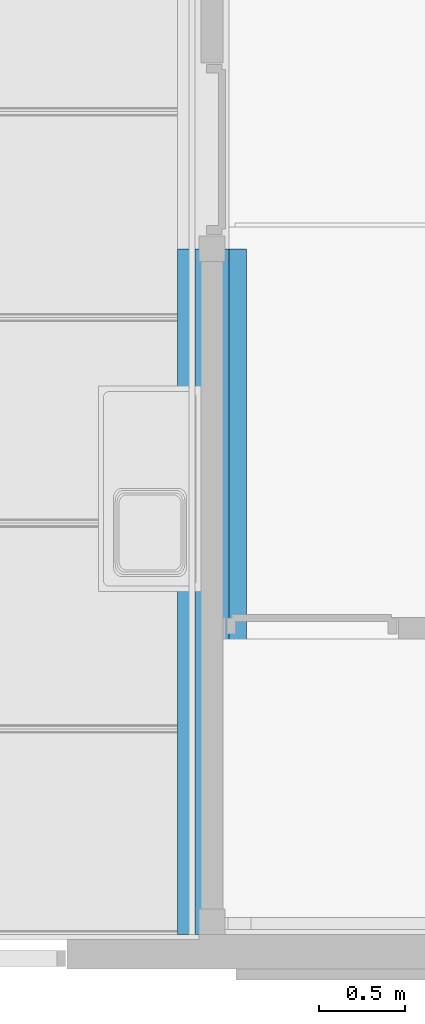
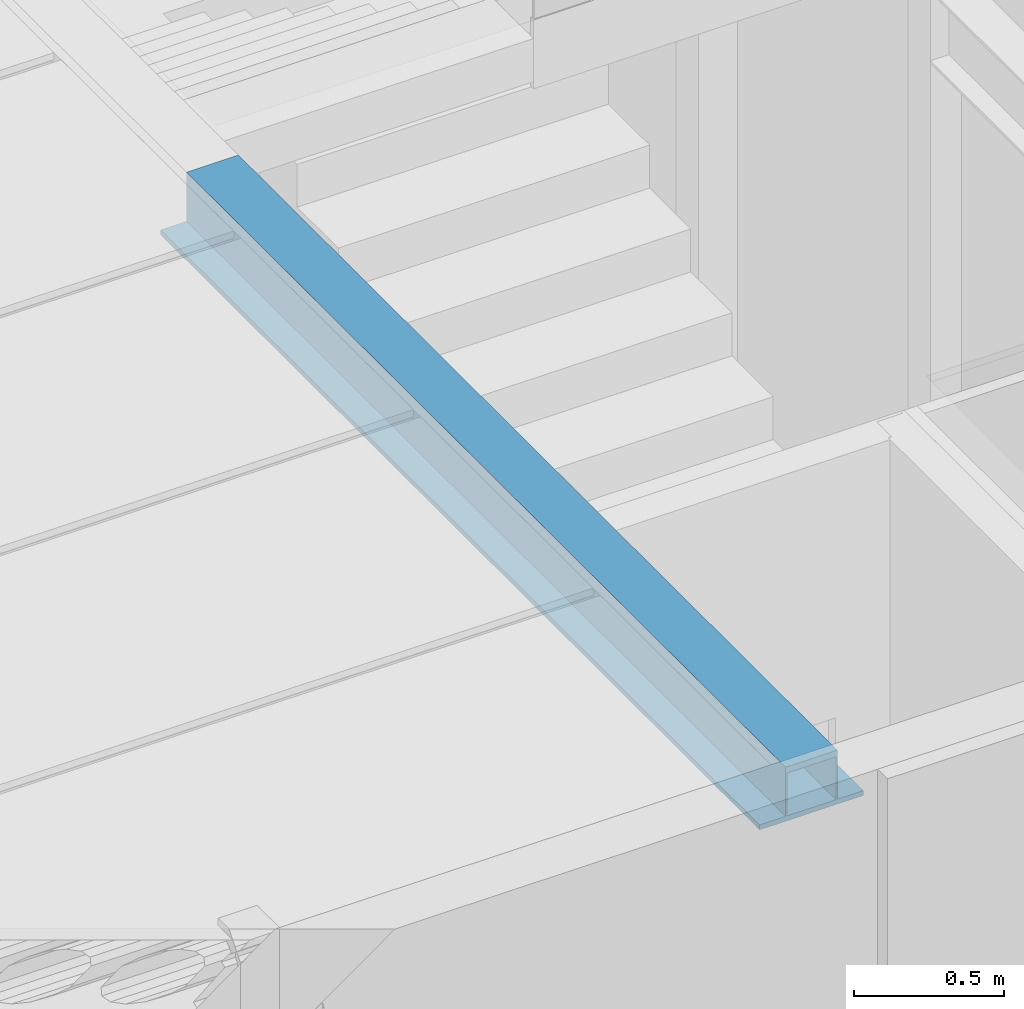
# One storey, part 18 of 45: 1 beam.
"""IFC2X3 building model written with IfcOpenShell, lengths in millimetres."""

import ifcopenshell
import ifcopenshell.guid

model = None  # the IFC model being written
_history = None  # IfcOwnerHistory: only IFC2X3 demands one
_inside = {}  # id of a spatial element -> (the spatial element, [elements in it])
_under = {}  # id of a project, library or spatial element -> (it, [spatial elements below it])
_declared = {}  # id of a project -> (the project, [libraries it declares])
_typed = {}  # id of a type object -> (the type object, [elements of that type])
_made_of = {}  # id of a material, layer set ... -> (it, [elements and type objects made of it])


def new_model(schema):
    """Start an empty IFC model of exactly this schema.

    Asked for "IFC4X3", IfcOpenShell would pick the latest addendum, in which some entities
    have other attributes; the version numbers below select the first issue.
    IFC2X3 requires an IfcOwnerHistory on every rooted entity: one is made here for all.
    """
    global model, _history
    if schema == "IFC4X3":
        model = ifcopenshell.file(schema_version=(4, 3, 0, 0))
    else:
        model = ifcopenshell.file(schema=schema)
    _inside.clear()
    _under.clear()
    _declared.clear()
    _typed.clear()
    _made_of.clear()
    _history = None
    if model.schema == "IFC2X3":
        org = make("IfcOrganization", Name="unknown")
        user = make(
            "IfcPersonAndOrganization",
            ThePerson=make("IfcPerson", FamilyName="unknown"),
            TheOrganization=org,
        )
        app = make(
            "IfcApplication",
            ApplicationDeveloper=org,
            Version="unknown",
            ApplicationFullName="unknown",
            ApplicationIdentifier="unknown",
        )
        _history = make(
            "IfcOwnerHistory",
            OwningUser=user,
            OwningApplication=app,
            ChangeAction="ADDED",
            CreationDate=0,
        )
    return model


def make(cls, **values):
    """One entity of the class cls with the attributes given. An attribute that is None is left unset."""
    return model.create_entity(
        cls, **{name: value for name, value in values.items() if value is not None}
    )


def entity(cls, *values):
    """Any entity or typed value of the class cls, its attributes in the order of the schema. None: left unset."""
    e = model.create_entity(cls)
    for i, value in enumerate(values):
        if value is not None:
            e[i] = value
    return e


def rooted(cls, **values):
    """An entity with a GlobalId (a new one), such as an element, a storey or a relation."""
    return make(cls, GlobalId=ifcopenshell.guid.new(), OwnerHistory=_history, **values)


def si_unit(unit_type, name, prefix=None):
    """IfcSIUnit, for example si_unit("LENGTHUNIT", "METRE", prefix="MILLI")."""
    return make("IfcSIUnit", UnitType=unit_type, Prefix=prefix, Name=name)


def converted_unit(unit_type, name, factor, base, dimensions=None, offset=None):
    """IfcConversionBasedUnit, such as the inch: factor (a typed value) times the base unit."""
    return make(
        "IfcConversionBasedUnit"
        if offset is None
        else "IfcConversionBasedUnitWithOffset",
        ConversionOffset=offset,
        Dimensions=None
        if dimensions is None
        else entity("IfcDimensionalExponents", *dimensions),
        UnitType=unit_type,
        Name=name,
        ConversionFactor=make(
            "IfcMeasureWithUnit", ValueComponent=factor, UnitComponent=base
        ),
    )


def assignment(units):
    """IfcUnitAssignment: the units of a project."""
    return None if units is None else make("IfcUnitAssignment", Units=units)


def point(xyz):
    """IfcCartesianPoint."""
    return None if xyz is None else make("IfcCartesianPoint", Coordinates=xyz)


def direction(xyz):
    """IfcDirection."""
    return None if xyz is None else make("IfcDirection", DirectionRatios=xyz)


def frame(location, z_axis=None, x_axis=None):
    """IfcAxis2Placement3D, a coordinate frame: its origin and axes. An axis left out is left unset."""
    return make(
        "IfcAxis2Placement3D",
        Location=point(location),
        Axis=direction(z_axis),
        RefDirection=direction(x_axis),
    )


def origin():
    """The frame at (0, 0, 0) with its axes left unset."""
    return frame((0.0, 0.0, 0.0))


def place(relative_to, where):
    """IfcLocalPlacement: puts the frame where relative to a parent placement (None: the world)."""
    return make(
        "IfcLocalPlacement", PlacementRelTo=relative_to, RelativePlacement=where
    )


def context(
    kind, dimensions, precision=None, world=None, true_north=None, identifier=None
):
    """IfcGeometricRepresentationContext, for example the 3D "Model" context."""
    return make(
        "IfcGeometricRepresentationContext",
        ContextIdentifier=identifier,
        ContextType=kind,
        CoordinateSpaceDimension=dimensions,
        Precision=precision,
        WorldCoordinateSystem=world,
        TrueNorth=true_north,
    )


def subcontext(parent, identifier, kind, view, scale=None):
    """IfcGeometricRepresentationSubContext, for example "Body" below "Model"."""
    return make(
        "IfcGeometricRepresentationSubContext",
        ContextIdentifier=identifier,
        ContextType=kind,
        ParentContext=parent,
        TargetScale=scale,
        TargetView=view,
    )


def project(units=None, contexts=None):
    """IfcProject with its units and contexts."""
    return rooted(
        "IfcProject",
        Name="project",
        RepresentationContexts=contexts,
        UnitsInContext=assignment(units),
    )


def spatial(cls, under=None, at=None, **own):
    """A site, building, storey or space (cls), placed at a placement, below another one or the project."""
    s = rooted(cls, ObjectPlacement=at, **own)
    if under is not None:
        _under.setdefault(under.id(), (under, []))[1].append(s)
    return s


def faces_of(points, faces, orient=None, outer=None):
    """IfcFace entities. A face is a list of loops; a loop is a list of indices into points, from 0.

    orient and outer hold one flag for each loop. By default every Orientation is true, the
    first loop of a face is its IfcFaceOuterBound and the others are IfcFaceBound.
    """
    made = []
    for i, loops in enumerate(faces):
        bounds = []
        for j, loop in enumerate(loops):
            is_outer = j == 0 if outer is None else outer[i][j]
            bounds.append(
                make(
                    "IfcFaceOuterBound" if is_outer else "IfcFaceBound",
                    Bound=make("IfcPolyLoop", Polygon=[points[k] for k in loop]),
                    Orientation=True if orient is None else orient[i][j],
                )
            )
        made.append(make("IfcFace", Bounds=bounds))
    return made


def faceted_brep(points, faces, orient=None, outer=None, voids=None):
    """IfcFacetedBrep: a solid bounded by flat faces; with voids (closed shells), ...WithVoids."""
    shared = [point(p) for p in points]
    hull = make("IfcClosedShell", CfsFaces=faces_of(shared, faces, orient, outer))
    if voids is None:
        return make("IfcFacetedBrep", Outer=hull)
    return make(
        "IfcFacetedBrepWithVoids",
        Outer=hull,
        Voids=[
            make(cls, CfsFaces=faces_of(shared, fs, o, b)) for cls, fs, o, b in voids
        ],
    )


def shape(context_of_items, identifier, shape_type, items):
    """IfcShapeRepresentation: the items that make up one representation, for example the "Body"."""
    return make(
        "IfcShapeRepresentation",
        ContextOfItems=context_of_items,
        RepresentationIdentifier=identifier,
        RepresentationType=shape_type,
        Items=items,
    )


def material(Name=None, Category=None):
    """IfcMaterial."""
    return make("IfcMaterial", Name=Name, Category=Category)


def made_of(thing, what):
    """Note that an element or type object is made of a material, layer set ...; save() writes the relation."""
    if what is not None:
        _made_of.setdefault(what.id(), (what, []))[1].append(thing)
    return thing


def element(
    cls,
    number,
    at=None,
    inside=None,
    cuts=None,
    type_object=None,
    material=None,
    context=None,
    identifier="Body",
    shape_type=None,
    held_by="IfcProductDefinitionShape",
    body=None,
    shapes=None,
    **own,
):
    """One element of the class cls, such as IfcWall. Its Tag is "e" and its number.

    at: its placement. inside: the storey or other place that contains it. cuts: it is an
    opening in that element (IfcRelVoidsElement). A single representation is given by context,
    identifier, shape_type and body (its items); several are given by shapes. held_by: the class
    of the entity that holds the representations. save() writes the other relations.
    """
    e = rooted(cls, Tag="e%d" % number, ObjectPlacement=at, **own)
    if body is not None:
        shapes = [shape(context, identifier, shape_type, body)]
    if shapes is not None:
        e.Representation = make(held_by, Representations=shapes)
    if inside is not None:
        _inside.setdefault(inside.id(), (inside, []))[1].append(e)
    if cuts is not None:
        rooted(
            "IfcRelVoidsElement", RelatingBuildingElement=cuts, RelatedOpeningElement=e
        )
    if type_object is not None:
        _typed.setdefault(type_object.id(), (type_object, []))[1].append(e)
    return made_of(e, material)


def aggregate(whole, parts):
    """IfcRelAggregates: a whole, such as a stair, and the parts it consists of."""
    return rooted("IfcRelAggregates", RelatingObject=whole, RelatedObjects=parts)


def save(model, path):
    """Write the relations noted so far, then the file.

    IfcRelAggregates (storeys below a building ...), IfcRelContainedInSpatialStructure (elements
    in a storey), IfcRelDefinesByType, IfcRelAssociatesMaterial and IfcRelDeclares: one each for
    every whole, place, type object, material and project.
    """
    for whole, parts in _under.values():
        aggregate(whole, parts)
    for where, things in _inside.values():
        rooted(
            "IfcRelContainedInSpatialStructure",
            RelatedElements=things,
            RelatingStructure=where,
        )
    for kind, things in _typed.values():
        rooted("IfcRelDefinesByType", RelatedObjects=things, RelatingType=kind)
    for what, things in _made_of.values():
        rooted("IfcRelAssociatesMaterial", RelatedObjects=things, RelatingMaterial=what)
    for by, libraries in _declared.values():
        rooted("IfcRelDeclares", RelatingContext=by, RelatedDefinitions=libraries)
    model.write(path)


model = new_model("IFC2X3")

# Units and contexts
model_context = context("Model", 3, precision=1e-05, world=origin())
plan_context = context("Plan", 3, precision=1e-05, world=origin())
body_context = subcontext(model_context, "Body", "Model", "MODEL_VIEW")
ifc_project = project(units=[si_unit("LENGTHUNIT", "METRE", prefix="MILLI"), converted_unit("PLANEANGLEUNIT", "DEGREE", entity("IfcPlaneAngleMeasure", 0.0174532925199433), si_unit("PLANEANGLEUNIT", "RADIAN"), dimensions=[0, 0, 0, 0, 0, 0, 0]), si_unit("AREAUNIT", "SQUARE_METRE"), si_unit("VOLUMEUNIT", "CUBIC_METRE")], contexts=[model_context, plan_context])

# Building, storey
building_placement = place(None, origin())
building = spatial("IfcBuilding", under=ifc_project, at=building_placement, Name="HEKF Administrasjonbygg", CompositionType="ELEMENT")
storey_placement = place(building_placement, frame((0.0, 0.0, 6500.0), z_axis=(0.0, 0.0, 1.0), x_axis=(1.0, 0.0, 0.0)))
storey = spatial("IfcBuildingStorey", under=building, at=storey_placement, Name="Plan 1", CompositionType="ELEMENT", Elevation=6500.0)

# Beam
ifc_material = material(Name="HSQ")
beam_placement = place(storey_placement, frame((0.0, 0.0, -6500.0), z_axis=(0.0, 0.0, 1.0), x_axis=(1.0, 0.0, 0.0)))
element("IfcBeam", 1, at=beam_placement, inside=storey, material=ifc_material, context=body_context, shape_type="Brep", body=[
    faceted_brep([(26925.53680645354, -11999.99999999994, 9670.0), (26925.53680645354, -11999.99999999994, 9650.0), (26925.53680645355, -8000.0, 9650.0), (26925.53680645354, -8000.0, 9670.0), (27325.53680645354, -11999.99999999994, 9670.0), (27325.53680645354, -11999.99999999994, 9650.0), (26925.53680645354, -11999.99999999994, 9650.0), (26925.53680645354, -11999.99999999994, 9670.0), (27025.53680645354, -11999.99999999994, 9670.0), (27025.53680645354, -11999.99999999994, 9870.0), (27225.53680645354, -11999.99999999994, 9870.0), (27225.53680645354, -11999.99999999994, 9670.0), (27030.53680645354, -11999.99999999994, 9670.0), (27220.53680645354, -11999.99999999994, 9670.0), (27220.53680645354, -11999.99999999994, 9845.0), (27030.53680645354, -11999.99999999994, 9845.0), (27325.53680645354, -8000.0, 9670.0), (27325.53680645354, -8000.0, 9650.0), (27325.53680645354, -11999.99999999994, 9650.0), (27325.53680645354, -11999.99999999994, 9670.0), (26925.53680645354, -8000.0, 9670.0), (26925.53680645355, -8000.0, 9650.0), (27325.53680645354, -8000.0, 9650.0), (27325.53680645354, -8000.0, 9670.0), (27225.53680645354, -8000.0, 9670.0), (27225.53680645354, -8000.0, 9870.0), (27025.53680645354, -8000.0, 9870.0), (27025.53680645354, -8000.0, 9670.0), (27030.53680645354, -8000.0, 9670.0), (27030.53680645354, -8000.0, 9845.0), (27220.53680645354, -8000.0, 9845.0), (27220.53680645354, -8000.0, 9670.0), (26925.53680645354, -11999.99999999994, 9650.0), (27325.53680645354, -11999.99999999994, 9650.0), (27325.53680645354, -8000.0, 9650.0), (26925.53680645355, -8000.0, 9650.0), (27325.53680645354, -11999.99999999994, 9670.0), (27225.53680645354, -11999.99999999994, 9670.0), (27225.53680645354, -8000.0, 9670.0), (27325.53680645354, -8000.0, 9670.0), (27225.53680645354, -11999.99999999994, 9670.0), (27225.53680645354, -11999.99999999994, 9870.0), (27225.53680645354, -8000.0, 9870.0), (27225.53680645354, -8000.0, 9670.0), (27225.53680645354, -11999.99999999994, 9870.0), (27025.53680645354, -11999.99999999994, 9870.0), (27025.53680645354, -8000.0, 9870.0), (27225.53680645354, -8000.0, 9870.0), (27025.53680645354, -11999.99999999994, 9870.0), (27025.53680645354, -11999.99999999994, 9670.0), (27025.53680645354, -8000.0, 9670.0), (27025.53680645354, -8000.0, 9870.0), (27025.53680645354, -11999.99999999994, 9670.0), (26925.53680645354, -11999.99999999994, 9670.0), (26925.53680645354, -8000.0, 9670.0), (27025.53680645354, -8000.0, 9670.0), (27030.53680645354, -11999.99999999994, 9670.0), (27030.53680645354, -11999.99999999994, 9845.0), (27030.53680645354, -8000.0, 9845.0), (27030.53680645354, -8000.0, 9670.0), (27030.53680645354, -11999.99999999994, 9845.0), (27220.53680645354, -11999.99999999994, 9845.0), (27220.53680645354, -8000.0, 9845.0), (27030.53680645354, -8000.0, 9845.0), (27220.53680645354, -11999.99999999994, 9845.0), (27220.53680645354, -11999.99999999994, 9670.0), (27220.53680645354, -8000.0, 9670.0), (27220.53680645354, -8000.0, 9845.0), (27220.53680645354, -11999.99999999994, 9670.0), (27030.53680645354, -11999.99999999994, 9670.0), (27030.53680645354, -8000.0, 9670.0), (27220.53680645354, -8000.0, 9670.0)], [[[0, 1, 2, 3]], [[4, 5, 6, 7, 8, 9, 10, 11], [12, 13, 14, 15]], [[16, 17, 18, 19]], [[20, 21, 22, 23, 24, 25, 26, 27], [28, 29, 30, 31]], [[32, 33, 34, 35]], [[36, 37, 38, 39]], [[40, 41, 42, 43]], [[44, 45, 46, 47]], [[48, 49, 50, 51]], [[52, 53, 54, 55]], [[56, 57, 58, 59]], [[60, 61, 62, 63]], [[64, 65, 66, 67]], [[68, 69, 70, 71]]], orient=[[False], [False, False], [False], [False, False], [False], [False], [False], [False], [False], [False], [False], [False], [False], [False]]),
])

save(model, "model.ifc")
